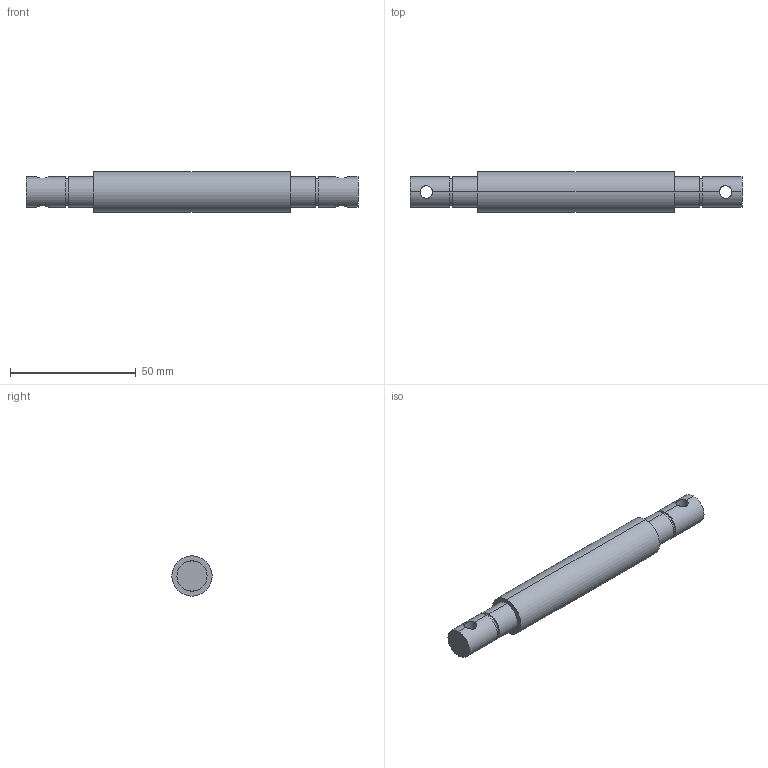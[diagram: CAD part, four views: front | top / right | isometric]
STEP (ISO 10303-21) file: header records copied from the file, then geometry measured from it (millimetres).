
FILE_DESCRIPTION (( 'STEP AP203' ), '1' );
FILE_NAME ('FB-002-18C从动轴A.STEP', '2025-03-19T04:10:23', ( 'Windows 用户' ), ( 'Organization' ), 'SwSTEP 2.0', 'SolidWorks 2020', '' );
FILE_SCHEMA (( 'CONFIG_CONTROL_DESIGN' ));
Length unit declared in the file: millimetre
Products named in the file (1): FB-002-18C植雄粣A
Bounding box: 132 x 16 x 16 mm (x, y, z)
Volume: 21269.7 mm3; surface area: 6727.1 mm2
Topology: 1 solids, 1 shells, 26 faces, 58 edges, 36 vertices
Faces by surface type: cylinder 18, plane 8
Entity records: 1035 total; most frequent: CARTESIAN_POINT 361, DIRECTION 132, ORIENTED_EDGE 116, EDGE_CURVE 58, AXIS2_PLACEMENT_3D 55, VERTEX_POINT 36, EDGE_LOOP 32, CIRCLE 28
